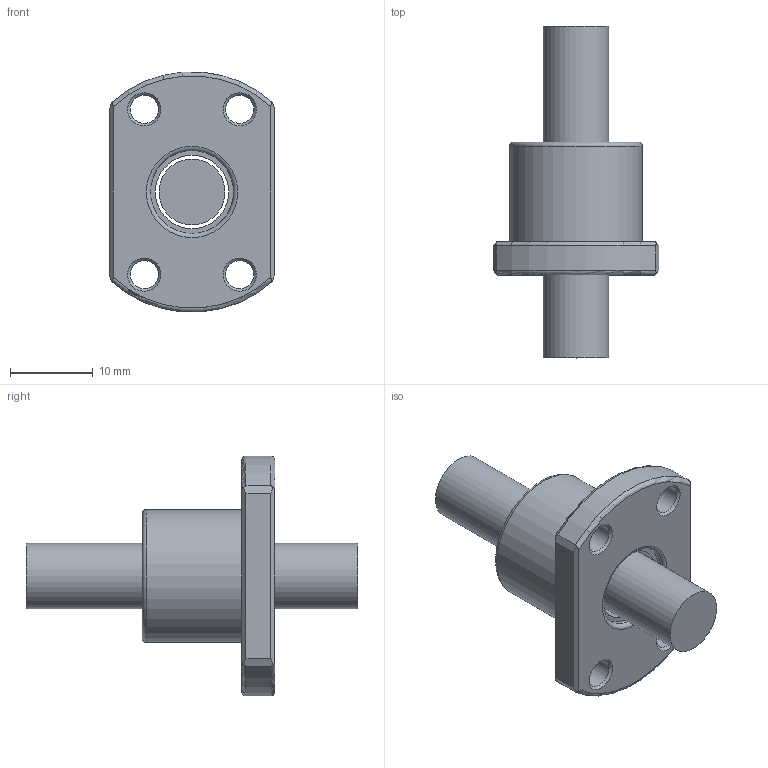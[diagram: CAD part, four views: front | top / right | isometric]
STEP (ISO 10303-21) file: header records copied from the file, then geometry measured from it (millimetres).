
FILE_DESCRIPTION(/* description */ (''),/* implementation_level */ '2;1');
FILE_NAME(/* name */ '0802.prt.step',/* time_stamp */ '2008-12-05T09:38:12+08:00',/* author */ (''),/* organization */ (''),/* preprocessor_version */ 'ST-DEVELOPER v11',/* originating_system */ 'SIEMENS UGS NX 6.0',/* authorisation */ '');
FILE_SCHEMA (('AUTOMOTIVE_DESIGN { 1 0 10303 214 1 1 1 1 }'));
Length unit declared in the file: millimetre
Products named in the file (1): 0802
Bounding box: 20 x 40 x 28.91 mm (x, y, z)
Volume: 5328.6 mm3; surface area: 3449.8 mm2
Topology: 2 solids, 2 shells, 43 faces, 100 edges, 64 vertices
Faces by surface type: plane 17, cylinder 11, cone 8, torus 7
Full cylindrical faces by diameter (mm): 3.4 x4, 7.95 x1, 8.85 x1, 10 x2, 16 x1
Entity records: 1334 total; most frequent: CARTESIAN_POINT 398, DIRECTION 186, ORIENTED_EDGE 154, AXIS2_PLACEMENT_3D 81, EDGE_CURVE 77, EDGE_LOOP 76, VERTEX_POINT 61, FACE_BOUND 58
